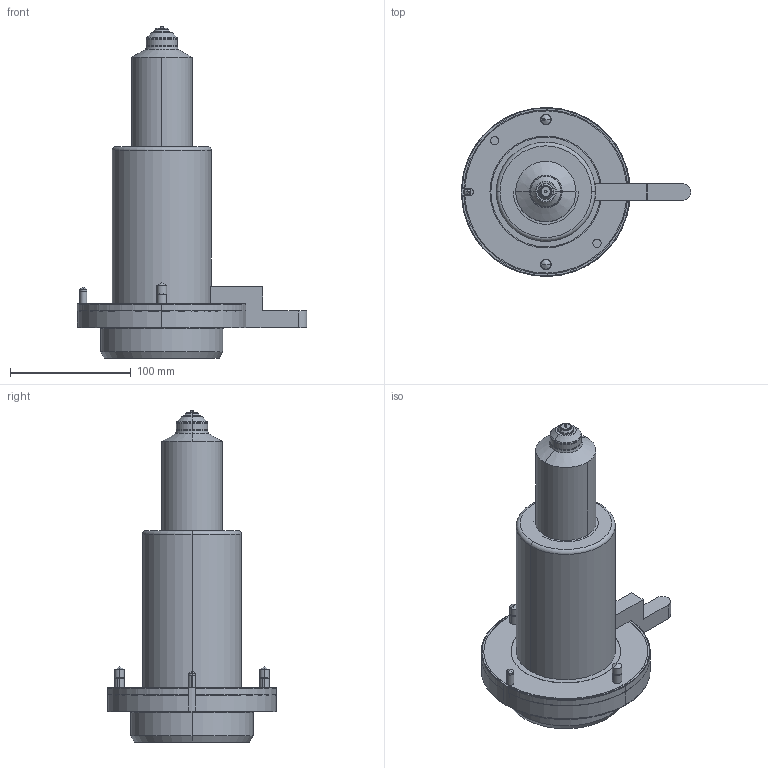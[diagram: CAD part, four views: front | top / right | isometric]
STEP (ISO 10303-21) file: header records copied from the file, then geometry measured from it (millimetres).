
FILE_DESCRIPTION (( 'STEP AP214' ), '1' );
FILE_NAME ('SB15_OPEN_A250.STEP', '2009-07-28T13:30:19', ( 'Synventive Molding Solutions' ), ( 'Synventive Molding Solutions' ), 'SwSTEP 2.0', 'SolidWorks 2008', '' );
FILE_SCHEMA (( 'AUTOMOTIVE_DESIGN' ));
Length unit declared in the file: millimetre
Products named in the file (1): SB15_OPEN_A250
Bounding box: 190 x 140 x 275 mm (x, y, z)
Volume: 2049649.4 mm3; surface area: 213994 mm2
Topology: 4 solids, 9 shells, 649 faces, 1605 edges, 994 vertices
Faces by surface type: cylinder 255, plane 223, torus 84, cone 75, sphere 8, bspline 4
Entity records: 27829 total; most frequent: CARTESIAN_POINT 5121, DIRECTION 3409, ORIENTED_EDGE 3170, EDGE_CURVE 1585, AXIS2_PLACEMENT_3D 1348, VERTEX_POINT 994, LINE 713, VECTOR 713
